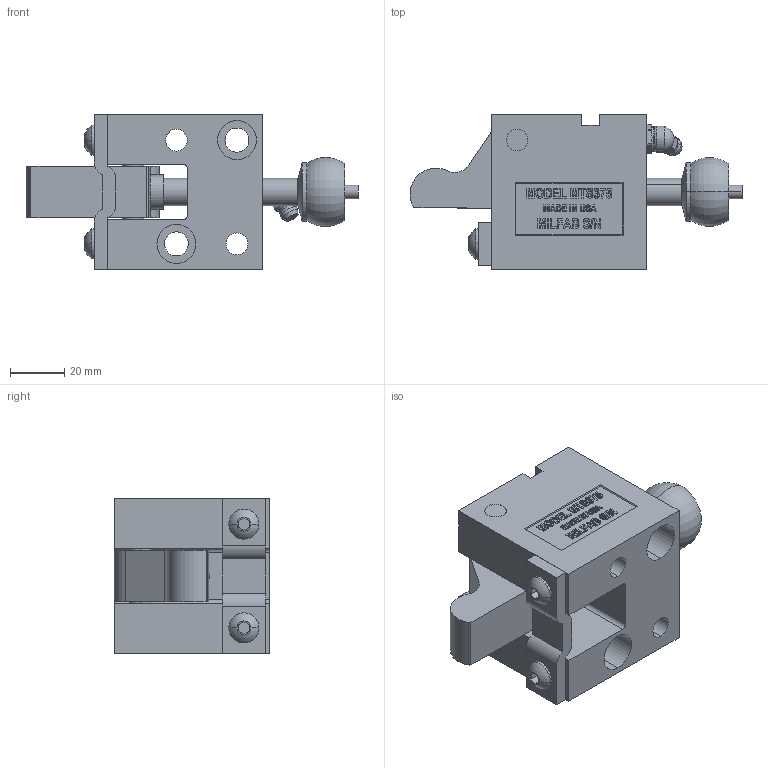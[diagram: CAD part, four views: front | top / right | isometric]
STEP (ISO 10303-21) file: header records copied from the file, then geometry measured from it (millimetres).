
FILE_DESCRIPTION (( 'STEP AP214' ), '1' );
FILE_NAME ('MTS37545-C.STEP', '2014-01-07T23:14:33', ( 'user' ), ( '' ), 'SwSTEP 2.0', 'SolidWorks 2009', '' );
FILE_SCHEMA (( 'AUTOMOTIVE_DESIGN' ));
Length unit declared in the file: inch
Products named in the file (11): 375-OFFSET TRIGGER; MS375-PUNCH; MTS375-BODY; MTS37545-C; 375 STRIPPER CLOSED; 375-WASHER; M-I-375-POINT; GREASE ZERK; 1-4 SCREW; 375-I-STRAP; 375 PIVOT PIN
Assembly tree (11 placements, depth 2):
  MTS37545-C
    GREASE ZERK
    375 PIVOT PIN
    375-WASHER
    MS375-PUNCH
    375 STRIPPER CLOSED
    375-I-STRAP
    1-4 SCREW  x2
    M-I-375-POINT
    MTS375-BODY
    375-OFFSET TRIGGER
Bounding box: 121.9 x 57.15 x 57.15 mm (x, y, z)
Volume: 164424.8 mm3; surface area: 47440.9 mm2
Topology: 11 solids, 11 shells, 594 faces, 1541 edges, 1012 vertices
Faces by surface type: plane 349, bspline 99, cylinder 90, cone 30, torus 22, sphere 4
Entity records: 23622 total; most frequent: CARTESIAN_POINT 9625, ORIENTED_EDGE 2994, DIRECTION 2413, EDGE_CURVE 1497, VECTOR 995, LINE 995, VERTEX_POINT 986, AXIS2_PLACEMENT_3D 709
